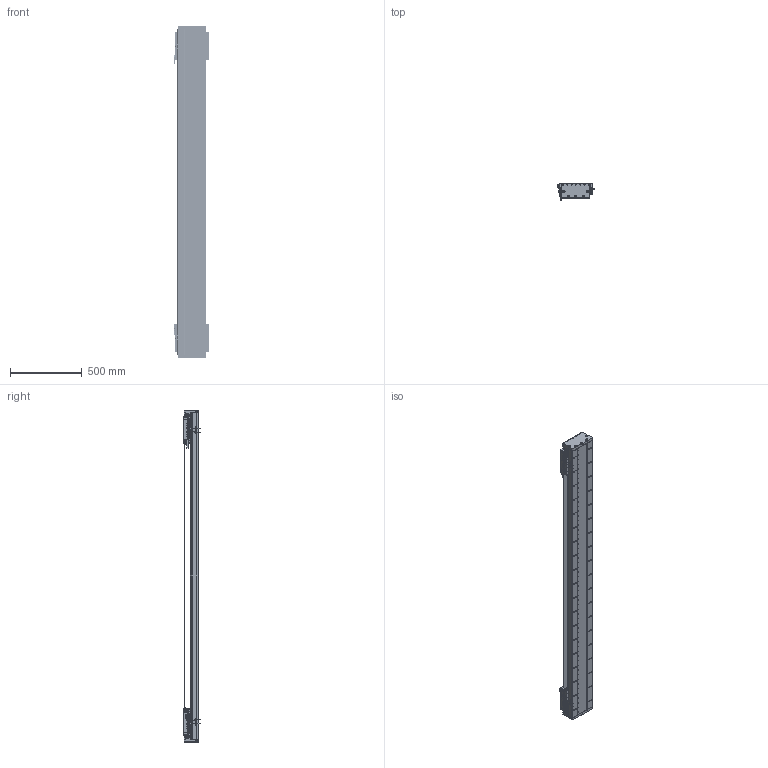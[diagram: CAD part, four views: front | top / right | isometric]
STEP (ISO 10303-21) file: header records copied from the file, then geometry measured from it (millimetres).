
FILE_DESCRIPTION (( 'STEP AP203' ), '1' );
FILE_NAME ('DA-C195-2-C2-T1820-C010-0.2 眻盄萇儂.STEP', '2025-08-14T02:07:44', ( '' ), ( '' ), 'SwSTEP 2.0', 'SolidWorks 2019', '' );
FILE_SCHEMA (( 'CONFIG_CONTROL_DESIGN' ));
Length unit declared in the file: millimetre
Products named in the file (19): CU195-C2賑輸-俋楷-1; IU-CU195-L 菁釱絳寢-1; 葩璃 DA95-GT-T-00-1; DA95-HXJ-00 遣喳砎蝶-1; PM-T45ㄗ侂狟ㄘ-1; DA195詩湍菜輸-1; DKW-GYP-ZJ-00 笢潔嫖萇覜茼え-1; PM-Y65嫖萇羲壽郪璃-1; MS200 棠掑喜S315-T1740-1; DA-C195-2-C2-T1820-C010-0.2 眻盄萇儂; IU-CU195-L-00 菁釱(L2280); DA-C195-GD-DB-H-00 傷啣-1; DA195詩湍裔啣-1; DA195詩湍郪璃-1; DA165-GYP-00 光电感应片(默认)-1; DA195詩湍嶺輸-1; DKW168-HXJ-ZJ-00 笢潔滅袉砎蝶-1; DKW-KGZ-ZJ-00 中间光电开关支架-1; LMT黍杅芛-1
Assembly tree (37 placements, depth 3):
  DA-C195-2-C2-T1820-C010-0.2 眻盄萇儂
    DA195詩湍郪璃-1
      DA195詩湍菜輸-1  x2
      DA195詩湍裔啣-1
      DA195詩湍嶺輸-1  x2
      DA95-HXJ-00 遣喳砎蝶-1  x8
      DA-C195-GD-DB-H-00 傷啣-1  x2
    IU-CU195-L 菁釱絳寢-1
      IU-CU195-L-00 菁釱(L2280)
      葩璃 DA95-GT-T-00-1  x4
    LMT黍杅芛-1  x2
    MS200 棠掑喜S315-T1740-1
    PM-T45ㄗ侂狟ㄘ-1  x4
    DA165-GYP-00 光电感应片(默认)-1  x2
    PM-Y65嫖萇羲壽郪璃-1
    DKW168-HXJ-ZJ-00 笢潔滅袉砎蝶-1
    DKW-GYP-ZJ-00 笢潔嫖萇覜茼え-1
    DKW-KGZ-ZJ-00 中间光电开关支架-1
    CU195-C2賑輸-俋楷-1  x2
Bounding box: 258.2 x 115.45 x 2320 mm (x, y, z)
Volume: 14752181.5 mm3; surface area: 4252851.1 mm2
Topology: 114 solids, 242 shells, 6875 faces, 18071 edges, 11217 vertices
Faces by surface type: cylinder 3172, plane 2619, cone 916, torus 88, sphere 72, bspline 8
Entity records: 144025 total; most frequent: CARTESIAN_POINT 37647, ORIENTED_EDGE 21974, DIRECTION 21330, EDGE_CURVE 10987, AXIS2_PLACEMENT_3D 7845, VERTEX_POINT 7104, VECTOR 5640, LINE 5640
